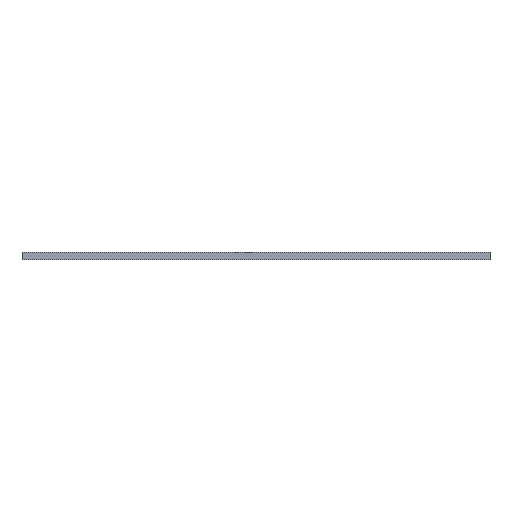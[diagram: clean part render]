
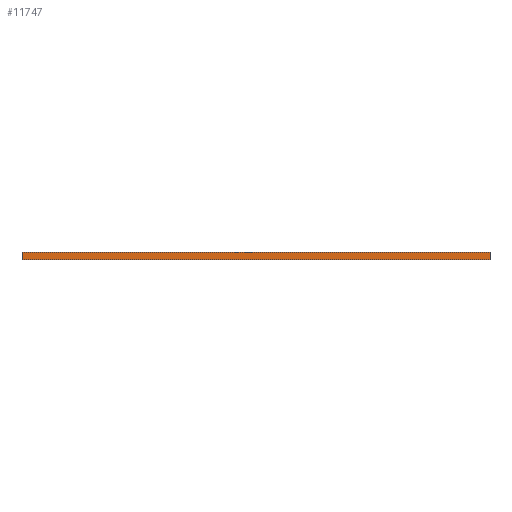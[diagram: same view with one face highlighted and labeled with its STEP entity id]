
A CAD part, left-side view. The second image highlights one B-rep face of the part: STEP entity #11747.
In plain terms, the highlighted planar face has unit normal (-1, 0, 0).
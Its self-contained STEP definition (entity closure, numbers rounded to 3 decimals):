
#144 = VERTEX_POINT('',#145);
#145 = CARTESIAN_POINT('',(0.,-0.,0.));
#151 = EDGE_CURVE('',#152,#144,#154,.T.);
#152 = VERTEX_POINT('',#153);
#153 = CARTESIAN_POINT('',(0.,-73.,0.));
#154 = LINE('',#155,#156);
#155 = CARTESIAN_POINT('',(0.,-73.,0.));
#156 = VECTOR('',#157,1.);
#157 = DIRECTION('',(0.,1.,0.));
#5932 = VERTEX_POINT('',#5933);
#5933 = CARTESIAN_POINT('',(0.,0.,1.11));
#5939 = EDGE_CURVE('',#5940,#5932,#5942,.T.);
#5940 = VERTEX_POINT('',#5941);
#5941 = CARTESIAN_POINT('',(0.,-73.,1.11));
#5942 = LINE('',#5943,#5944);
#5943 = CARTESIAN_POINT('',(0.,-73.,1.11));
#5944 = VECTOR('',#5945,1.);
#5945 = DIRECTION('',(0.,1.,0.));
#11717 = EDGE_CURVE('',#144,#5932,#11718,.T.);
#11718 = LINE('',#11719,#11720);
#11719 = CARTESIAN_POINT('',(0.,-0.,0.));
#11720 = VECTOR('',#11721,1.);
#11721 = DIRECTION('',(0.,0.,1.));
#11747 = ADVANCED_FACE('',(#11748),#11759,.T.);
#11748 = FACE_BOUND('',#11749,.T.);
#11749 = EDGE_LOOP('',(#11750,#11756,#11757,#11758));
#11750 = ORIENTED_EDGE('',*,*,#11751,.T.);
#11751 = EDGE_CURVE('',#152,#5940,#11752,.T.);
#11752 = LINE('',#11753,#11754);
#11753 = CARTESIAN_POINT('',(0.,-73.,0.));
#11754 = VECTOR('',#11755,1.);
#11755 = DIRECTION('',(0.,0.,1.));
#11756 = ORIENTED_EDGE('',*,*,#5939,.T.);
#11757 = ORIENTED_EDGE('',*,*,#11717,.F.);
#11758 = ORIENTED_EDGE('',*,*,#151,.F.);
#11759 = PLANE('',#11760);
#11760 = AXIS2_PLACEMENT_3D('',#11761,#11762,#11763);
#11761 = CARTESIAN_POINT('',(0.,-73.,0.));
#11762 = DIRECTION('',(-1.,0.,0.));
#11763 = DIRECTION('',(0.,1.,0.));
